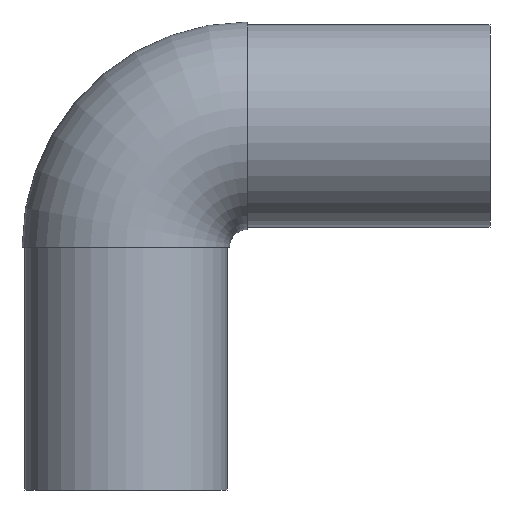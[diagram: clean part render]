
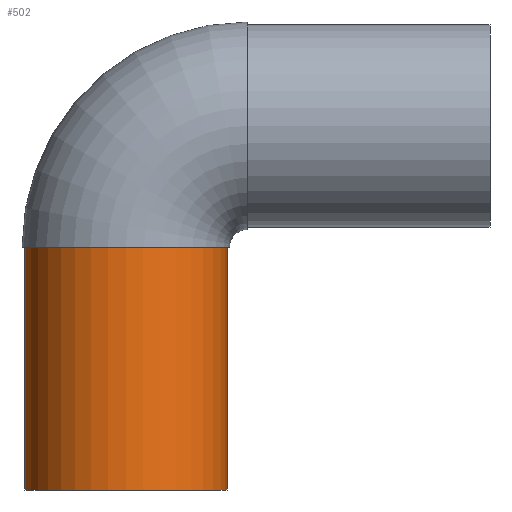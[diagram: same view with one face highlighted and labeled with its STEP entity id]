
A CAD part, front view. The second image highlights one B-rep face of the part: STEP entity #502.
In plain terms, the highlighted cylindrical face has radius 37.5 mm (diameter 75 mm), a partial arc.
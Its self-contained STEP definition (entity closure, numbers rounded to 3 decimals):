
#5 = CIRCLE ( 'NONE', #7, 37.5 ) ;
#7 = AXIS2_PLACEMENT_3D ( 'NONE', #95, #94, #93 ) ;
#45 = EDGE_CURVE ( 'NONE', #378, #380, #364, .T. ) ;
#60 = EDGE_CURVE ( 'NONE', #377, #379, #110, .T. ) ;
#63 = EDGE_CURVE ( 'NONE', #378, #377, #5, .T. ) ;
#69 = EDGE_CURVE ( 'NONE', #380, #379, #471, .T. ) ;
#87 = DIRECTION ( 'NONE',  ( 1., 0., 0. ) ) ;
#88 = DIRECTION ( 'NONE',  ( 0., 0., 1. ) ) ;
#89 = CARTESIAN_POINT ( 'NONE',  ( 0., 0., -135. ) ) ;
#93 = DIRECTION ( 'NONE',  ( 1., 0., 0. ) ) ;
#94 = DIRECTION ( 'NONE',  ( 0., 0., 1. ) ) ;
#95 = CARTESIAN_POINT ( 'NONE',  ( 0., 0., -45. ) ) ;
#102 = DIRECTION ( 'NONE',  ( 0., 0., -1. ) ) ;
#109 = CARTESIAN_POINT ( 'NONE',  ( 37.5, 0., -45. ) ) ;
#110 = LINE ( 'NONE', #109, #485 ) ;
#145 = CARTESIAN_POINT ( 'NONE',  ( 37.5, 0., -45. ) ) ;
#146 = CARTESIAN_POINT ( 'NONE',  ( -37.5, 0., -45. ) ) ;
#147 = CARTESIAN_POINT ( 'NONE',  ( 37.5, 0., -135. ) ) ;
#148 = CARTESIAN_POINT ( 'NONE',  ( -37.5, 0., -135. ) ) ;
#190 = DIRECTION ( 'NONE',  ( 0., 0., -1. ) ) ;
#193 = FACE_OUTER_BOUND ( 'NONE', #392, .T. ) ;
#194 = CARTESIAN_POINT ( 'NONE',  ( 0., 0., -45. ) ) ;
#196 = CYLINDRICAL_SURFACE ( 'NONE', #309, 37.5 ) ;
#197 = DIRECTION ( 'NONE',  ( -1., 0., 0. ) ) ;
#309 = AXIS2_PLACEMENT_3D ( 'NONE', #194, #190, #197 ) ;
#339 = VECTOR ( 'NONE', #358, 1000. ) ;
#349 = ORIENTED_EDGE ( 'NONE', *, *, #45, .T. ) ;
#351 = ORIENTED_EDGE ( 'NONE', *, *, #69, .T. ) ;
#358 = DIRECTION ( 'NONE',  ( 0., 0., -1. ) ) ;
#364 = LINE ( 'NONE', #366, #339 ) ;
#366 = CARTESIAN_POINT ( 'NONE',  ( -37.5, 0., -45. ) ) ;
#377 = VERTEX_POINT ( 'NONE', #145 ) ;
#378 = VERTEX_POINT ( 'NONE', #146 ) ;
#379 = VERTEX_POINT ( 'NONE', #147 ) ;
#380 = VERTEX_POINT ( 'NONE', #148 ) ;
#392 = EDGE_LOOP ( 'NONE', ( #446, #449, #349, #351 ) ) ;
#446 = ORIENTED_EDGE ( 'NONE', *, *, #60, .F. ) ;
#449 = ORIENTED_EDGE ( 'NONE', *, *, #63, .F. ) ;
#471 = CIRCLE ( 'NONE', #484, 37.5 ) ;
#484 = AXIS2_PLACEMENT_3D ( 'NONE', #89, #88, #87 ) ;
#485 = VECTOR ( 'NONE', #102, 1000. ) ;
#502 = ADVANCED_FACE ( 'NONE', ( #193 ), #196, .T. ) ;
